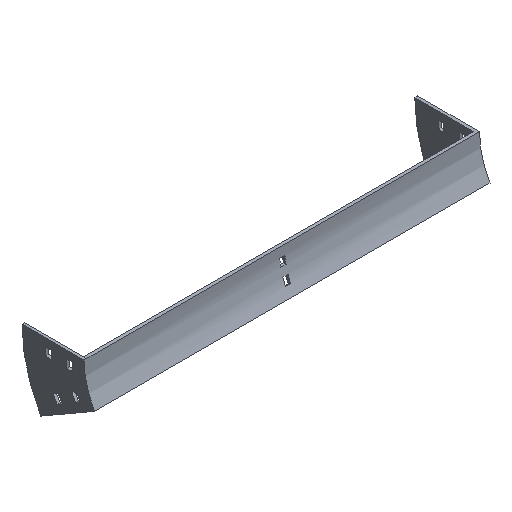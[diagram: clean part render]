
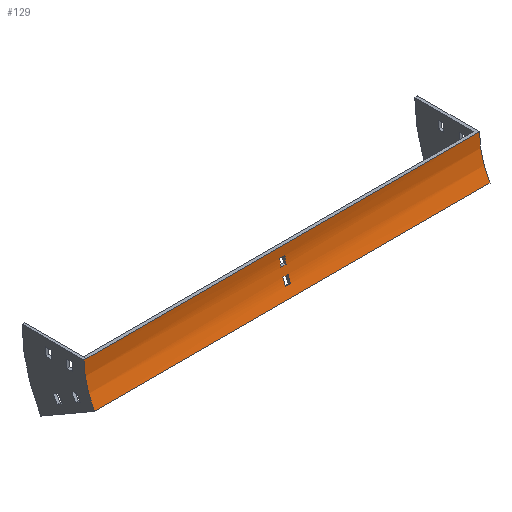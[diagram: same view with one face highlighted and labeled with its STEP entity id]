
A CAD part, isometric view. The second image highlights one B-rep face of the part: STEP entity #129.
In plain terms, the highlighted cylindrical face has radius 100 mm (diameter 200 mm), a partial arc.
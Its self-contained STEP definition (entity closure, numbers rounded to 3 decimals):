
#6 = EDGE_CURVE ( 'NONE', #344, #602, #239, .T. ) ;
#24 = FACE_OUTER_BOUND ( 'NONE', #1676, .T. ) ;
#53 = DIRECTION ( 'NONE',  ( 1., 0., 0. ) ) ;
#55 = VERTEX_POINT ( 'NONE', #1299 ) ;
#67 = VECTOR ( 'NONE', #304, 1000. ) ;
#68 = DIRECTION ( 'NONE',  ( -1., 0., 0. ) ) ;
#74 = CARTESIAN_POINT ( 'NONE',  ( 252., -2.23, -21. ) ) ;
#75 = CARTESIAN_POINT ( 'NONE',  ( 252., -100., 0. ) ) ;
#85 = LINE ( 'NONE', #74, #507 ) ;
#129 = ADVANCED_FACE ( 'NONE', ( #24, #1320, #1178 ), #1058, .F. ) ;
#148 = AXIS2_PLACEMENT_3D ( 'NONE', #75, #243, #231 ) ;
#149 = DIRECTION ( 'NONE',  ( -1., 0., 0. ) ) ;
#175 = CIRCLE ( 'NONE', #1453, 100. ) ;
#185 = CARTESIAN_POINT ( 'NONE',  ( 252., -13.397, -50. ) ) ;
#202 = CARTESIAN_POINT ( 'NONE',  ( 252., -8.023, -39.246 ) ) ;
#231 = DIRECTION ( 'NONE',  ( 0., 0., 1. ) ) ;
#239 = CIRCLE ( 'NONE', #562, 100. ) ;
#243 = DIRECTION ( 'NONE',  ( -1., 0., 0. ) ) ;
#249 = ORIENTED_EDGE ( 'NONE', *, *, #6, .T. ) ;
#252 = CARTESIAN_POINT ( 'NONE',  ( -3.25, -2.23, -21. ) ) ;
#255 = DIRECTION ( 'NONE',  ( -1., 0., 0. ) ) ;
#265 = VECTOR ( 'NONE', #273, 1000. ) ;
#267 = AXIS2_PLACEMENT_3D ( 'NONE', #686, #1611, #1537 ) ;
#270 = DIRECTION ( 'NONE',  ( 0., 0., 1. ) ) ;
#273 = DIRECTION ( 'NONE',  ( 1., 0., 0. ) ) ;
#274 = DIRECTION ( 'NONE',  ( 0., 0., 1. ) ) ;
#282 = EDGE_CURVE ( 'NONE', #1365, #383, #451, .T. ) ;
#291 = ORIENTED_EDGE ( 'NONE', *, *, #426, .F. ) ;
#300 = CARTESIAN_POINT ( 'NONE',  ( 252., -4.829, -30.699 ) ) ;
#302 = VERTEX_POINT ( 'NONE', #887 ) ;
#304 = DIRECTION ( 'NONE',  ( 1., 0., 0. ) ) ;
#321 = CARTESIAN_POINT ( 'NONE',  ( 252., 0., 0. ) ) ;
#344 = VERTEX_POINT ( 'NONE', #399 ) ;
#359 = CARTESIAN_POINT ( 'NONE',  ( 3.25, -4.829, -30.699 ) ) ;
#383 = VERTEX_POINT ( 'NONE', #185 ) ;
#397 = DIRECTION ( 'NONE',  ( -1., 0., 0. ) ) ;
#399 = CARTESIAN_POINT ( 'NONE',  ( -252., 0., 0. ) ) ;
#407 = EDGE_CURVE ( 'NONE', #800, #845, #818, .T. ) ;
#421 = AXIS2_PLACEMENT_3D ( 'NONE', #967, #68, #1587 ) ;
#426 = EDGE_CURVE ( 'NONE', #845, #55, #1016, .T. ) ;
#429 = ORIENTED_EDGE ( 'NONE', *, *, #1035, .T. ) ;
#431 = CARTESIAN_POINT ( 'NONE',  ( 252., 0., 0. ) ) ;
#432 = VECTOR ( 'NONE', #629, 1000. ) ;
#449 = CARTESIAN_POINT ( 'NONE',  ( 3.25, -100., 0. ) ) ;
#451 = CIRCLE ( 'NONE', #148, 100. ) ;
#473 = ORIENTED_EDGE ( 'NONE', *, *, #1495, .T. ) ;
#507 = VECTOR ( 'NONE', #149, 1000. ) ;
#511 = VECTOR ( 'NONE', #1617, 1000. ) ;
#513 = CIRCLE ( 'NONE', #421, 100. ) ;
#562 = AXIS2_PLACEMENT_3D ( 'NONE', #1076, #397, #270 ) ;
#582 = DIRECTION ( 'NONE',  ( 1., 0., 0. ) ) ;
#594 = LINE ( 'NONE', #1119, #984 ) ;
#602 = VERTEX_POINT ( 'NONE', #822 ) ;
#626 = ORIENTED_EDGE ( 'NONE', *, *, #1156, .T. ) ;
#629 = DIRECTION ( 'NONE',  ( -1., 0., 0. ) ) ;
#645 = VERTEX_POINT ( 'NONE', #252 ) ;
#648 = VERTEX_POINT ( 'NONE', #1305 ) ;
#664 = ORIENTED_EDGE ( 'NONE', *, *, #1006, .T. ) ;
#686 = CARTESIAN_POINT ( 'NONE',  ( -3.25, -100., 0. ) ) ;
#720 = EDGE_CURVE ( 'NONE', #1274, #302, #513, .T. ) ;
#743 = ORIENTED_EDGE ( 'NONE', *, *, #779, .F. ) ;
#779 = EDGE_CURVE ( 'NONE', #1419, #800, #1487, .T. ) ;
#800 = VERTEX_POINT ( 'NONE', #359 ) ;
#818 = LINE ( 'NONE', #300, #511 ) ;
#819 = ORIENTED_EDGE ( 'NONE', *, *, #720, .T. ) ;
#822 = CARTESIAN_POINT ( 'NONE',  ( -252., -13.397, -50. ) ) ;
#841 = CARTESIAN_POINT ( 'NONE',  ( 3.25, -8.023, -39.246 ) ) ;
#845 = VERTEX_POINT ( 'NONE', #1638 ) ;
#857 = DIRECTION ( 'NONE',  ( 0., 0., 1. ) ) ;
#862 = ORIENTED_EDGE ( 'NONE', *, *, #1584, .F. ) ;
#873 = LINE ( 'NONE', #964, #67 ) ;
#881 = ORIENTED_EDGE ( 'NONE', *, *, #407, .F. ) ;
#887 = CARTESIAN_POINT ( 'NONE',  ( 3.25, -2.23, -21. ) ) ;
#964 = CARTESIAN_POINT ( 'NONE',  ( 252., -0.723, -12. ) ) ;
#967 = CARTESIAN_POINT ( 'NONE',  ( 3.25, -100., 0. ) ) ;
#984 = VECTOR ( 'NONE', #998, 1000. ) ;
#998 = DIRECTION ( 'NONE',  ( -1., 0., 0. ) ) ;
#1000 = ORIENTED_EDGE ( 'NONE', *, *, #282, .F. ) ;
#1006 = EDGE_CURVE ( 'NONE', #648, #1274, #873, .T. ) ;
#1015 = AXIS2_PLACEMENT_3D ( 'NONE', #1071, #255, #274 ) ;
#1016 = CIRCLE ( 'NONE', #267, 100. ) ;
#1021 = DIRECTION ( 'NONE',  ( 0., 0., 1. ) ) ;
#1035 = EDGE_CURVE ( 'NONE', #302, #645, #85, .T. ) ;
#1058 = CYLINDRICAL_SURFACE ( 'NONE', #1015, 100. ) ;
#1071 = CARTESIAN_POINT ( 'NONE',  ( 252., -100., 0. ) ) ;
#1076 = CARTESIAN_POINT ( 'NONE',  ( -252., -100., 0. ) ) ;
#1119 = CARTESIAN_POINT ( 'NONE',  ( 252., -13.397, -50. ) ) ;
#1121 = CARTESIAN_POINT ( 'NONE',  ( 3.25, -0.723, -12. ) ) ;
#1132 = CARTESIAN_POINT ( 'NONE',  ( -3.25, -100., 0. ) ) ;
#1156 = EDGE_CURVE ( 'NONE', #645, #648, #175, .T. ) ;
#1177 = AXIS2_PLACEMENT_3D ( 'NONE', #449, #53, #857 ) ;
#1178 = FACE_BOUND ( 'NONE', #1227, .T. ) ;
#1208 = EDGE_LOOP ( 'NONE', ( #429, #626, #664, #819 ) ) ;
#1227 = EDGE_LOOP ( 'NONE', ( #291, #881, #743, #1406 ) ) ;
#1274 = VERTEX_POINT ( 'NONE', #1121 ) ;
#1296 = EDGE_CURVE ( 'NONE', #55, #1419, #1368, .T. ) ;
#1299 = CARTESIAN_POINT ( 'NONE',  ( -3.25, -8.023, -39.246 ) ) ;
#1305 = CARTESIAN_POINT ( 'NONE',  ( -3.25, -0.723, -12. ) ) ;
#1320 = FACE_BOUND ( 'NONE', #1208, .T. ) ;
#1365 = VERTEX_POINT ( 'NONE', #431 ) ;
#1368 = LINE ( 'NONE', #202, #265 ) ;
#1401 = LINE ( 'NONE', #321, #432 ) ;
#1406 = ORIENTED_EDGE ( 'NONE', *, *, #1296, .F. ) ;
#1419 = VERTEX_POINT ( 'NONE', #841 ) ;
#1453 = AXIS2_PLACEMENT_3D ( 'NONE', #1132, #582, #1021 ) ;
#1487 = CIRCLE ( 'NONE', #1177, 100. ) ;
#1495 = EDGE_CURVE ( 'NONE', #1365, #344, #1401, .T. ) ;
#1537 = DIRECTION ( 'NONE',  ( 0., 0., -1. ) ) ;
#1584 = EDGE_CURVE ( 'NONE', #383, #602, #594, .T. ) ;
#1587 = DIRECTION ( 'NONE',  ( 0., 0., -1. ) ) ;
#1611 = DIRECTION ( 'NONE',  ( -1., 0., 0. ) ) ;
#1617 = DIRECTION ( 'NONE',  ( -1., 0., 0. ) ) ;
#1638 = CARTESIAN_POINT ( 'NONE',  ( -3.25, -4.829, -30.699 ) ) ;
#1676 = EDGE_LOOP ( 'NONE', ( #249, #862, #1000, #473 ) ) ;
